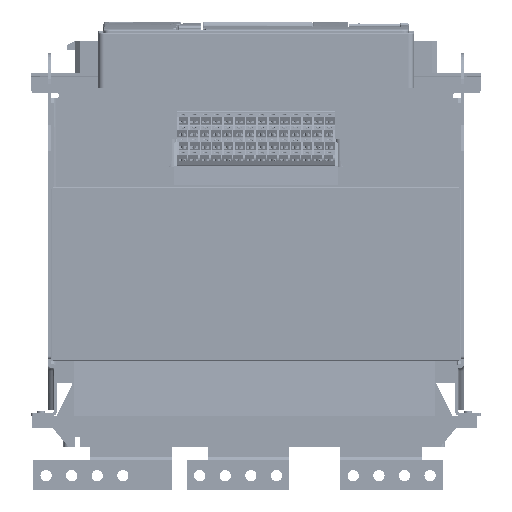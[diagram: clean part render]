
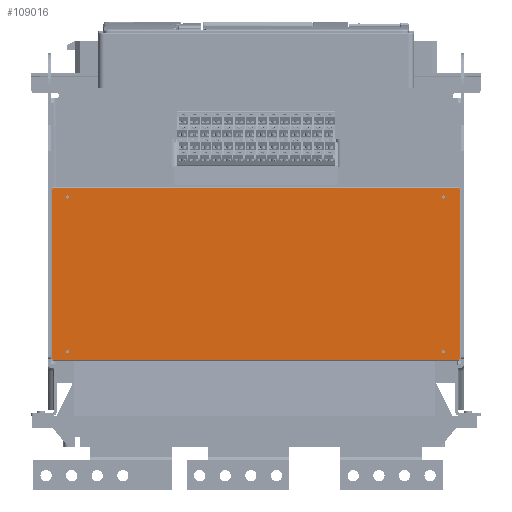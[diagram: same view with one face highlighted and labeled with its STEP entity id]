
A CAD part, front view. The second image highlights one B-rep face of the part: STEP entity #109016.
In plain terms, the highlighted planar face has unit normal (0, -1, 0) as drawn and (0, 0, -1) by its records, which use the part's own axes.
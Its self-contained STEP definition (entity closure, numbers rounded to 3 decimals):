
#5021=FACE_BOUND('',#15173,.T.);
#5022=FACE_BOUND('',#15174,.T.);
#5023=FACE_BOUND('',#15175,.T.);
#5024=FACE_BOUND('',#15176,.T.);
#9002=FACE_OUTER_BOUND('',#15172,.T.);
#15172=EDGE_LOOP('',(#89708,#89709,#89710,#89711,#89712,#89713,#89714,#89715,
#89716,#89717,#89718,#89719));
#15173=EDGE_LOOP('',(#89720));
#15174=EDGE_LOOP('',(#89721));
#15175=EDGE_LOOP('',(#89722));
#15176=EDGE_LOOP('',(#89723));
#19594=CIRCLE('',#117378,1.6);
#19595=CIRCLE('',#117379,1.6);
#19596=CIRCLE('',#117380,1.6);
#19597=CIRCLE('',#117381,1.6);
#27940=LINE('',#214795,#39431);
#27941=LINE('',#214797,#39432);
#27942=LINE('',#214799,#39433);
#27943=LINE('',#214801,#39434);
#27944=LINE('',#214803,#39435);
#27945=LINE('',#214805,#39436);
#27946=LINE('',#214807,#39437);
#27947=LINE('',#214809,#39438);
#27948=LINE('',#214811,#39439);
#27949=LINE('',#214813,#39440);
#27950=LINE('',#214815,#39441);
#27951=LINE('',#214816,#39442);
#39431=VECTOR('',#139326,166.);
#39432=VECTOR('',#139327,1.);
#39433=VECTOR('',#139328,1.);
#39434=VECTOR('',#139329,397.);
#39435=VECTOR('',#139330,1.);
#39436=VECTOR('',#139331,1.);
#39437=VECTOR('',#139332,166.);
#39438=VECTOR('',#139333,1.);
#39439=VECTOR('',#139334,1.);
#39440=VECTOR('',#139335,397.);
#39441=VECTOR('',#139336,1.);
#39442=VECTOR('',#139337,1.);
#50180=VERTEX_POINT('',#214793);
#50181=VERTEX_POINT('',#214794);
#50182=VERTEX_POINT('',#214796);
#50183=VERTEX_POINT('',#214798);
#50184=VERTEX_POINT('',#214800);
#50185=VERTEX_POINT('',#214802);
#50186=VERTEX_POINT('',#214804);
#50187=VERTEX_POINT('',#214806);
#50188=VERTEX_POINT('',#214808);
#50189=VERTEX_POINT('',#214810);
#50190=VERTEX_POINT('',#214812);
#50191=VERTEX_POINT('',#214814);
#50192=VERTEX_POINT('',#214817);
#50193=VERTEX_POINT('',#214819);
#50194=VERTEX_POINT('',#214821);
#50195=VERTEX_POINT('',#214823);
#63966=EDGE_CURVE('',#50180,#50181,#27940,.T.);
#63967=EDGE_CURVE('',#50181,#50182,#27941,.T.);
#63968=EDGE_CURVE('',#50183,#50182,#27942,.T.);
#63969=EDGE_CURVE('',#50183,#50184,#27943,.T.);
#63970=EDGE_CURVE('',#50184,#50185,#27944,.T.);
#63971=EDGE_CURVE('',#50186,#50185,#27945,.T.);
#63972=EDGE_CURVE('',#50186,#50187,#27946,.T.);
#63973=EDGE_CURVE('',#50187,#50188,#27947,.T.);
#63974=EDGE_CURVE('',#50189,#50188,#27948,.T.);
#63975=EDGE_CURVE('',#50189,#50190,#27949,.T.);
#63976=EDGE_CURVE('',#50190,#50191,#27950,.T.);
#63977=EDGE_CURVE('',#50180,#50191,#27951,.T.);
#63978=EDGE_CURVE('',#50192,#50192,#19594,.T.);
#63979=EDGE_CURVE('',#50193,#50193,#19595,.T.);
#63980=EDGE_CURVE('',#50194,#50194,#19596,.T.);
#63981=EDGE_CURVE('',#50195,#50195,#19597,.T.);
#89708=ORIENTED_EDGE('',*,*,#63966,.T.);
#89709=ORIENTED_EDGE('',*,*,#63967,.T.);
#89710=ORIENTED_EDGE('',*,*,#63968,.F.);
#89711=ORIENTED_EDGE('',*,*,#63969,.T.);
#89712=ORIENTED_EDGE('',*,*,#63970,.T.);
#89713=ORIENTED_EDGE('',*,*,#63971,.F.);
#89714=ORIENTED_EDGE('',*,*,#63972,.T.);
#89715=ORIENTED_EDGE('',*,*,#63973,.T.);
#89716=ORIENTED_EDGE('',*,*,#63974,.F.);
#89717=ORIENTED_EDGE('',*,*,#63975,.T.);
#89718=ORIENTED_EDGE('',*,*,#63976,.T.);
#89719=ORIENTED_EDGE('',*,*,#63977,.F.);
#89720=ORIENTED_EDGE('',*,*,#63978,.F.);
#89721=ORIENTED_EDGE('',*,*,#63979,.F.);
#89722=ORIENTED_EDGE('',*,*,#63980,.F.);
#89723=ORIENTED_EDGE('',*,*,#63981,.F.);
#103835=PLANE('',#117377);
#109016=ADVANCED_FACE('',(#9002,#5021,#5022,#5023,#5024),#103835,.F.);
#117377=AXIS2_PLACEMENT_3D('',#214792,#139324,#139325);
#117378=AXIS2_PLACEMENT_3D('',#214818,#139338,#139339);
#117379=AXIS2_PLACEMENT_3D('',#214820,#139340,#139341);
#117380=AXIS2_PLACEMENT_3D('',#214822,#139342,#139343);
#117381=AXIS2_PLACEMENT_3D('',#214824,#139344,#139345);
#139324=DIRECTION('center_axis',(0.,0.,1.));
#139325=DIRECTION('ref_axis',(1.,0.,0.));
#139326=DIRECTION('',(0.,-1.,0.));
#139327=DIRECTION('',(-1.,0.,0.));
#139328=DIRECTION('',(0.,1.,0.));
#139329=DIRECTION('',(-1.,0.,0.));
#139330=DIRECTION('',(0.,1.,0.));
#139331=DIRECTION('',(1.,0.,0.));
#139332=DIRECTION('',(0.,1.,0.));
#139333=DIRECTION('',(1.,0.,0.));
#139334=DIRECTION('',(0.,-1.,0.));
#139335=DIRECTION('',(1.,0.,0.));
#139336=DIRECTION('',(0.,-1.,0.));
#139337=DIRECTION('',(-1.,0.,0.));
#139338=DIRECTION('center_axis',(0.,0.,-1.));
#139339=DIRECTION('ref_axis',(-1.,0.,0.));
#139340=DIRECTION('center_axis',(0.,0.,-1.));
#139341=DIRECTION('ref_axis',(-1.,0.,0.));
#139342=DIRECTION('center_axis',(0.,0.,-1.));
#139343=DIRECTION('ref_axis',(-1.,0.,0.));
#139344=DIRECTION('center_axis',(0.,0.,-1.));
#139345=DIRECTION('ref_axis',(-1.,0.,0.));
#214792=CARTESIAN_POINT('Origin',(0.,0.,0.));
#214793=CARTESIAN_POINT('',(199.5,83.,0.));
#214794=CARTESIAN_POINT('',(199.5,-83.,0.));
#214795=CARTESIAN_POINT('',(199.5,83.,0.));
#214796=CARTESIAN_POINT('',(198.5,-83.,0.));
#214797=CARTESIAN_POINT('',(199.5,-83.,0.));
#214798=CARTESIAN_POINT('',(198.5,-84.,0.));
#214799=CARTESIAN_POINT('',(198.5,-84.,0.));
#214800=CARTESIAN_POINT('',(-198.5,-84.,0.));
#214801=CARTESIAN_POINT('',(198.5,-84.,0.));
#214802=CARTESIAN_POINT('',(-198.5,-83.,0.));
#214803=CARTESIAN_POINT('',(-198.5,-84.,0.));
#214804=CARTESIAN_POINT('',(-199.5,-83.,0.));
#214805=CARTESIAN_POINT('',(-199.5,-83.,0.));
#214806=CARTESIAN_POINT('',(-199.5,83.,0.));
#214807=CARTESIAN_POINT('',(-199.5,-83.,0.));
#214808=CARTESIAN_POINT('',(-198.5,83.,0.));
#214809=CARTESIAN_POINT('',(-199.5,83.,0.));
#214810=CARTESIAN_POINT('',(-198.5,84.,0.));
#214811=CARTESIAN_POINT('',(-198.5,84.,0.));
#214812=CARTESIAN_POINT('',(198.5,84.,0.));
#214813=CARTESIAN_POINT('',(-198.5,84.,0.));
#214814=CARTESIAN_POINT('',(198.5,83.,0.));
#214815=CARTESIAN_POINT('',(198.5,84.,0.));
#214816=CARTESIAN_POINT('',(199.5,83.,0.));
#214817=CARTESIAN_POINT('',(184.6,76.,0.));
#214818=CARTESIAN_POINT('Origin',(183.,76.,0.));
#214819=CARTESIAN_POINT('',(-182.4,-75.,0.));
#214820=CARTESIAN_POINT('Origin',(-184.,-75.,0.));
#214821=CARTESIAN_POINT('',(184.6,-75.,0.));
#214822=CARTESIAN_POINT('Origin',(183.,-75.,0.));
#214823=CARTESIAN_POINT('',(-182.4,76.,0.));
#214824=CARTESIAN_POINT('Origin',(-184.,76.,0.));
